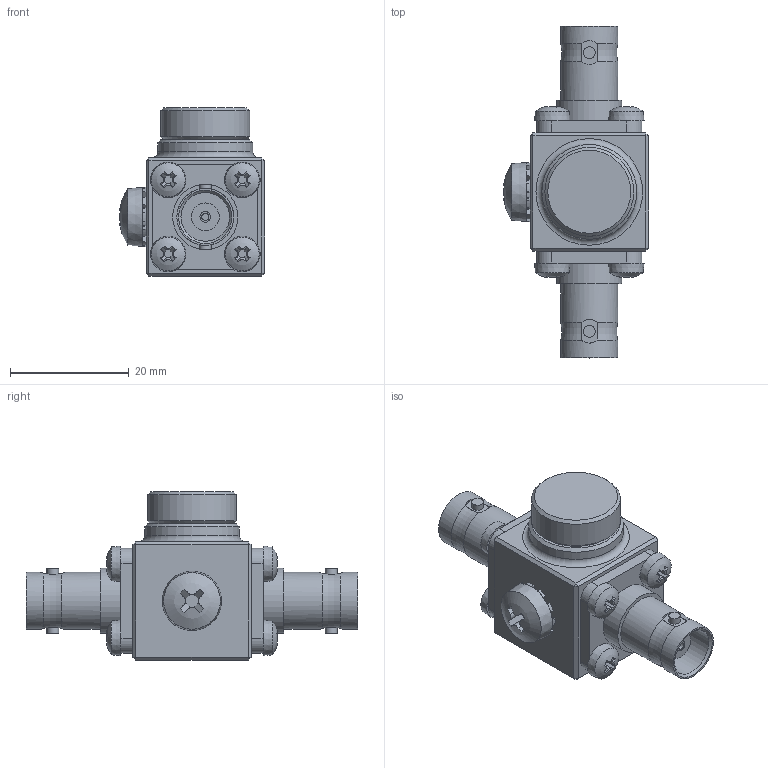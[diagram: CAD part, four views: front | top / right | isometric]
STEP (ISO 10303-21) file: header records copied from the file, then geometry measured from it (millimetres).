
FILE_DESCRIPTION(/* description */ (''),/* implementation_level */ '2;1');
FILE_NAME(/* name */ 'K:\PROJEKTY ROZPRACOVANÉ\MODELY DO KATALOGU\KO\3D - STEP\KO-_G.stp',/* time_stamp */ '2020-10-19T07:24:57+02:00',/* author */ ('M Koliska'),/* organization */ (''),/* preprocessor_version */ 'ST-DEVELOPER v18.1',/* originating_system */ 'Autodesk Inventor 2021',/* authorisation */ '');
FILE_SCHEMA (('AUTOMOTIVE_DESIGN { 1 0 10303 214 3 1 1 }'));
Length unit declared in the file: millimetre
Products named in the file (7): KO-_G; KOSTKA KO-1G; ŠROUB; KONEKTOR BNC; DIN 7985 (H) - M3x4-H; DIN 7985 (Z) - M5x6-Z; DIN 6798 - A  5,3
Assembly tree (14 placements, depth 2):
  KO-_G
    KOSTKA KO-1G
    ŠROUB
    KONEKTOR BNC  x2
    DIN 7985 (H) - M3x4-H  x8
    DIN 7985 (Z) - M5x6-Z
    DIN 6798 - A  5,3
Bounding box: 24.49 x 56 x 28.4 mm (x, y, z)
Volume: 13767.5 mm3; surface area: 8640.7 mm2
Topology: 14 solids, 14 shells, 543 faces, 1398 edges, 916 vertices
Faces by surface type: plane 267, cone 131, cylinder 122, torus 14, sphere 9
Full cylindrical faces by diameter (mm): 1.2 x2, 1.8 x2, 2 x4, 2.459 x4, 2.7 x2, 2.75 x8, 3 x8, 3.2 x8, 4.6 x1, 4.7 x2, 5 x1, 5.2 x2, 5.3 x1, 8.2 x2, 8.5 x2, 9.6 x4, 11 x2, 12 x1, 15 x1, 16 x1
Entity records: 7257 total; most frequent: CARTESIAN_POINT 1352, DIRECTION 1268, ORIENTED_EDGE 1124, EDGE_CURVE 562, AXIS2_PLACEMENT_3D 495, VERTEX_POINT 363, LINE 278, VECTOR 278
